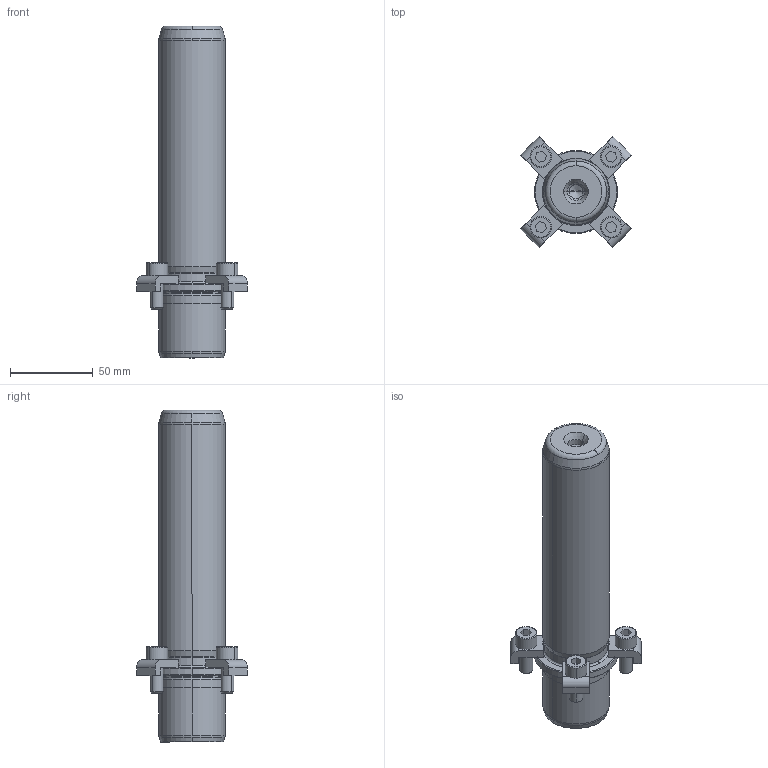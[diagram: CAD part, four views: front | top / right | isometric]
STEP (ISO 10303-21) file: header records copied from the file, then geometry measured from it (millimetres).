
FILE_DESCRIPTION((''),'2;1');
FILE_NAME('P21_040_160.stp','2008-12-23T11:25:24',(''),(''),'Mechanical Desktop 2009','Mechanical Desktop 2009',', , ');
FILE_SCHEMA(('CONFIG_CONTROL_DESIGN'));
Length unit declared in the file: millimetre
Products named in the file (2): Product; blmdl1
Assembly tree (1 placements, depth 2):
  Product
    blmdl1
Bounding box: 66.82 x 66.82 x 200 mm (x, y, z)
Volume: 261460 mm3; surface area: 39399.9 mm2
Topology: 9 solids, 9 shells, 203 faces, 501 edges, 325 vertices
Faces by surface type: plane 81, cylinder 56, cone 34, torus 16, bspline 16
Entity records: 6819 total; most frequent: CARTESIAN_POINT 1731, DIRECTION 1126, ORIENTED_EDGE 994, EDGE_CURVE 497, AXIS2_PLACEMENT_3D 440, VERTEX_POINT 325, CIRCLE 251, VECTOR 246
